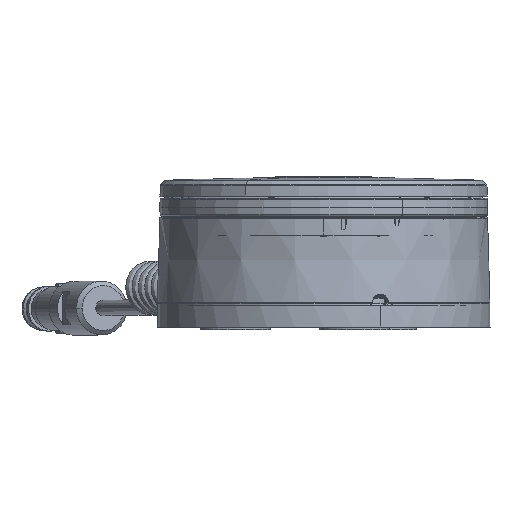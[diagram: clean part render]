
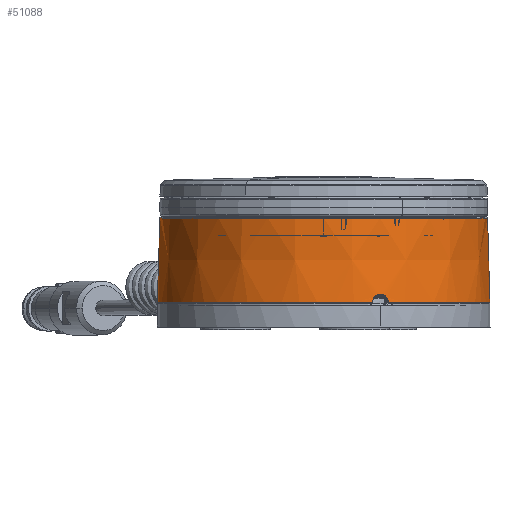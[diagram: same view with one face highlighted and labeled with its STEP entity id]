
A CAD part, front view. The second image highlights one B-rep face of the part: STEP entity #51088.
In plain terms, the highlighted conical face has half-angle 1.5 degrees and reference radius 73.072 mm.
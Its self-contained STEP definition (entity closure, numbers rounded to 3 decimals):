
#51009=AXIS2_PLACEMENT_3D('Cone Axis2P3D',#51006,#51007,#51008) ;
#51013=AXIS2_PLACEMENT_3D('Circle Axis2P3D',#51011,#51012,$) ;
#51030=AXIS2_PLACEMENT_3D('Circle Axis2P3D',#51028,#51029,$) ;
#51056=AXIS2_PLACEMENT_3D('Circle Axis2P3D',#51054,#51055,$) ;
#51068=AXIS2_PLACEMENT_3D('Circle Axis2P3D',#51066,#51067,$) ;
#50826=CARTESIAN_POINT('Vertex',(73.082,0.,7.61)) ;
#50833=CARTESIAN_POINT('Vertex',(-73.082,0.,7.61)) ;
#50965=CARTESIAN_POINT('Vertex',(21.79,-70.782,-29.748)) ;
#50971=CARTESIAN_POINT('Control Point',(21.317,-70.939,-30.2)) ;
#50972=CARTESIAN_POINT('Control Point',(21.494,-70.885,-30.2)) ;
#50973=CARTESIAN_POINT('Control Point',(21.673,-70.829,-30.107)) ;
#50974=CARTESIAN_POINT('Control Point',(21.775,-70.792,-29.931)) ;
#50975=CARTESIAN_POINT('Control Point',(21.79,-70.782,-29.748)) ;
#50976=CARTESIAN_POINT('Vertex',(21.317,-70.939,-30.2)) ;
#51006=CARTESIAN_POINT('Axis2P3D Location',(0.,0.,8.)) ;
#51011=CARTESIAN_POINT('Axis2P3D Location',(0.,0.,-30.2)) ;
#51015=CARTESIAN_POINT('Vertex',(-74.072,0.,-30.2)) ;
#51019=CARTESIAN_POINT('Control Point',(25.253,-69.529,-26.4)) ;
#51020=CARTESIAN_POINT('Control Point',(24.224,-69.903,-26.4)) ;
#51021=CARTESIAN_POINT('Control Point',(23.191,-70.268,-26.804)) ;
#51022=CARTESIAN_POINT('Control Point',(22.349,-70.552,-27.618)) ;
#51023=CARTESIAN_POINT('Control Point',(21.879,-70.725,-28.664)) ;
#51024=CARTESIAN_POINT('Control Point',(21.79,-70.782,-29.748)) ;
#51025=CARTESIAN_POINT('Vertex',(25.253,-69.529,-26.4)) ;
#51028=CARTESIAN_POINT('Axis2P3D Location',(0.,0.,-26.4)) ;
#51032=CARTESIAN_POINT('Vertex',(25.347,-69.495,-26.4)) ;
#51036=CARTESIAN_POINT('Control Point',(28.806,-68.229,-29.748)) ;
#51037=CARTESIAN_POINT('Control Point',(28.701,-68.242,-28.664)) ;
#51038=CARTESIAN_POINT('Control Point',(28.229,-68.411,-27.618)) ;
#51039=CARTESIAN_POINT('Control Point',(27.402,-68.735,-26.804)) ;
#51040=CARTESIAN_POINT('Control Point',(26.376,-69.119,-26.4)) ;
#51041=CARTESIAN_POINT('Control Point',(25.347,-69.495,-26.4)) ;
#51042=CARTESIAN_POINT('Vertex',(28.806,-68.229,-29.748)) ;
#51046=CARTESIAN_POINT('Control Point',(29.269,-68.045,-30.2)) ;
#51047=CARTESIAN_POINT('Control Point',(29.099,-68.118,-30.2)) ;
#51048=CARTESIAN_POINT('Control Point',(28.926,-68.189,-30.107)) ;
#51049=CARTESIAN_POINT('Control Point',(28.824,-68.226,-29.931)) ;
#51050=CARTESIAN_POINT('Control Point',(28.806,-68.229,-29.748)) ;
#51051=CARTESIAN_POINT('Vertex',(29.269,-68.045,-30.2)) ;
#51054=CARTESIAN_POINT('Axis2P3D Location',(0.,0.,-30.2)) ;
#51058=CARTESIAN_POINT('Vertex',(74.072,0.,-30.2)) ;
#51061=CARTESIAN_POINT('Line Origine',(73.572,0.,-11.1)) ;
#51066=CARTESIAN_POINT('Axis2P3D Location',(0.,0.,7.61)) ;
#51071=CARTESIAN_POINT('Line Origine',(-73.572,0.,-11.1)) ;
#51007=DIRECTION('Axis2P3D Direction',(0.,-0.,-1.)) ;
#51008=DIRECTION('Axis2P3D XDirection',(-1.,0.,0.)) ;
#51012=DIRECTION('Axis2P3D Direction',(0.,0.,1.)) ;
#51029=DIRECTION('Axis2P3D Direction',(0.,0.,1.)) ;
#51055=DIRECTION('Axis2P3D Direction',(0.,0.,1.)) ;
#51062=DIRECTION('Vector Direction',(0.026,0.,-1.)) ;
#51067=DIRECTION('Axis2P3D Direction',(0.,0.,1.)) ;
#51072=DIRECTION('Vector Direction',(-0.026,0.,-1.)) ;
#51063=VECTOR('Line Direction',#51062,1.) ;
#51073=VECTOR('Line Direction',#51072,1.) ;
#51077=ORIENTED_EDGE('',*,*,#51017,.F.) ;
#51078=ORIENTED_EDGE('',*,*,#50978,.T.) ;
#51079=ORIENTED_EDGE('',*,*,#51027,.F.) ;
#51080=ORIENTED_EDGE('',*,*,#51034,.T.) ;
#51081=ORIENTED_EDGE('',*,*,#51044,.F.) ;
#51082=ORIENTED_EDGE('',*,*,#51053,.F.) ;
#51083=ORIENTED_EDGE('',*,*,#51060,.F.) ;
#51084=ORIENTED_EDGE('',*,*,#51065,.F.) ;
#51085=ORIENTED_EDGE('',*,*,#51070,.F.) ;
#51086=ORIENTED_EDGE('',*,*,#51075,.T.) ;
#51088=ADVANCED_FACE('K-LED Rebelution Magnet Mounted',(#51087),#51010,.T.) ;
#50970=B_SPLINE_CURVE_WITH_KNOTS('',4,(#50971,#50972,#50973,#50974,#50975),.UNSPECIFIED.,.F.,.U.,(5,5),(0.,1.04),.UNSPECIFIED.) ;
#51018=B_SPLINE_CURVE_WITH_KNOTS('',5,(#51019,#51020,#51021,#51022,#51023,#51024),.UNSPECIFIED.,.F.,.U.,(6,6),(0.07,7.765),.UNSPECIFIED.) ;
#51035=B_SPLINE_CURVE_WITH_KNOTS('',5,(#51036,#51037,#51038,#51039,#51040,#51041),.UNSPECIFIED.,.F.,.U.,(6,6),(0.,7.695),.UNSPECIFIED.) ;
#51045=B_SPLINE_CURVE_WITH_KNOTS('',4,(#51046,#51047,#51048,#51049,#51050),.UNSPECIFIED.,.F.,.U.,(5,5),(0.,1.04),.UNSPECIFIED.) ;
#51014=CIRCLE('generated circle',#51013,74.072) ;
#51031=CIRCLE('generated circle',#51030,73.973) ;
#51057=CIRCLE('generated circle',#51056,74.072) ;
#51069=CIRCLE('generated circle',#51068,73.082) ;
#51010=CONICAL_SURFACE('Cone',#51009,73.072,0.026) ;
#50978=EDGE_CURVE('',#50977,#50966,#50970,.T.) ;
#51017=EDGE_CURVE('',#50977,#51016,#51014,.F.) ;
#51027=EDGE_CURVE('',#51026,#50966,#51018,.T.) ;
#51034=EDGE_CURVE('',#51026,#51033,#51031,.T.) ;
#51044=EDGE_CURVE('',#51043,#51033,#51035,.T.) ;
#51053=EDGE_CURVE('',#51052,#51043,#51045,.T.) ;
#51060=EDGE_CURVE('',#51059,#51052,#51057,.F.) ;
#51065=EDGE_CURVE('',#50827,#51059,#51064,.T.) ;
#51070=EDGE_CURVE('',#50834,#50827,#51069,.T.) ;
#51075=EDGE_CURVE('',#50834,#51016,#51074,.T.) ;
#51076=EDGE_LOOP('',(#51077,#51078,#51079,#51080,#51081,#51082,#51083,#51084,#51085,#51086)) ;
#51087=FACE_OUTER_BOUND('',#51076,.T.) ;
#51064=LINE('Line',#51061,#51063) ;
#51074=LINE('Line',#51071,#51073) ;
#50827=VERTEX_POINT('',#50826) ;
#50834=VERTEX_POINT('',#50833) ;
#50966=VERTEX_POINT('',#50965) ;
#50977=VERTEX_POINT('',#50976) ;
#51016=VERTEX_POINT('',#51015) ;
#51026=VERTEX_POINT('',#51025) ;
#51033=VERTEX_POINT('',#51032) ;
#51043=VERTEX_POINT('',#51042) ;
#51052=VERTEX_POINT('',#51051) ;
#51059=VERTEX_POINT('',#51058) ;
